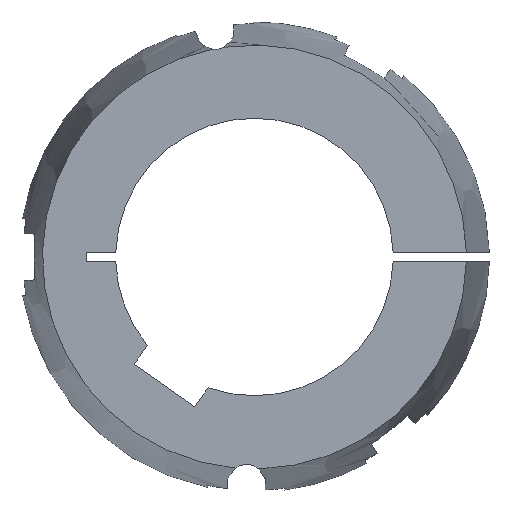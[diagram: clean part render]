
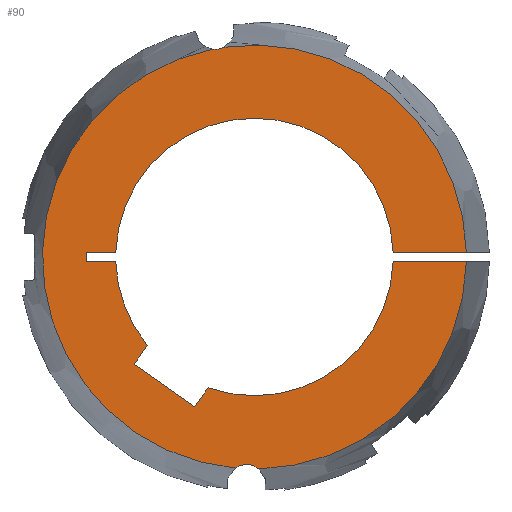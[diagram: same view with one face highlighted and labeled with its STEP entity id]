
A CAD part, left-side view. The second image highlights one B-rep face of the part: STEP entity #90.
In plain terms, the highlighted planar face has unit normal (-1, 0, 0).
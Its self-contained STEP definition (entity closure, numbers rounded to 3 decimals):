
#90 = ADVANCED_FACE( '', ( #140 ), #141, .F. );
#140 = FACE_OUTER_BOUND( '', #208, .T. );
#141 = PLANE( '', #209 );
#208 = EDGE_LOOP( '', ( #369, #370, #371, #372, #373, #374, #375, #376, #377, #378, #379, #380, #381, #382, #383, #384 ) );
#209 = AXIS2_PLACEMENT_3D( '', #385, #386, #387 );
#369 = ORIENTED_EDGE( '', *, *, #548, .F. );
#370 = ORIENTED_EDGE( '', *, *, #601, .F. );
#371 = ORIENTED_EDGE( '', *, *, #570, .T. );
#372 = ORIENTED_EDGE( '', *, *, #583, .T. );
#373 = ORIENTED_EDGE( '', *, *, #581, .T. );
#374 = ORIENTED_EDGE( '', *, *, #578, .T. );
#375 = ORIENTED_EDGE( '', *, *, #587, .T. );
#376 = ORIENTED_EDGE( '', *, *, #602, .T. );
#377 = ORIENTED_EDGE( '', *, *, #603, .T. );
#378 = ORIENTED_EDGE( '', *, *, #604, .T. );
#379 = ORIENTED_EDGE( '', *, *, #605, .T. );
#380 = ORIENTED_EDGE( '', *, *, #606, .T. );
#381 = ORIENTED_EDGE( '', *, *, #572, .T. );
#382 = ORIENTED_EDGE( '', *, *, #607, .F. );
#383 = ORIENTED_EDGE( '', *, *, #551, .F. );
#384 = ORIENTED_EDGE( '', *, *, #608, .F. );
#385 = CARTESIAN_POINT( '', ( -89., 0., 0. ) );
#386 = DIRECTION( '', ( 1., 0., 0. ) );
#387 = DIRECTION( '', ( 0., 1., 0. ) );
#548 = EDGE_CURVE( '', #649, #651, #652, .F. );
#551 = EDGE_CURVE( '', #655, #657, #658, .F. );
#570 = EDGE_CURVE( '', #693, #691, #694, .T. );
#572 = EDGE_CURVE( '', #696, #697, #698, .T. );
#578 = EDGE_CURVE( '', #709, #707, #710, .T. );
#581 = EDGE_CURVE( '', #714, #709, #715, .T. );
#583 = EDGE_CURVE( '', #691, #714, #717, .T. );
#587 = EDGE_CURVE( '', #707, #721, #723, .T. );
#601 = EDGE_CURVE( '', #693, #649, #745, .T. );
#602 = EDGE_CURVE( '', #721, #746, #747, .T. );
#603 = EDGE_CURVE( '', #746, #748, #749, .T. );
#604 = EDGE_CURVE( '', #748, #750, #751, .T. );
#605 = EDGE_CURVE( '', #750, #752, #753, .T. );
#606 = EDGE_CURVE( '', #752, #696, #754, .T. );
#607 = EDGE_CURVE( '', #657, #697, #755, .T. );
#608 = EDGE_CURVE( '', #651, #655, #756, .T. );
#649 = VERTEX_POINT( '', #815 );
#651 = VERTEX_POINT( '', #828 );
#652 = CIRCLE( '', #829, 5.25 );
#655 = VERTEX_POINT( '', #843 );
#657 = VERTEX_POINT( '', #861 );
#658 = CIRCLE( '', #862, 5.25 );
#691 = VERTEX_POINT( '', #935 );
#693 = VERTEX_POINT( '', #938 );
#694 = LINE( '', #939, #940 );
#696 = VERTEX_POINT( '', #948 );
#697 = VERTEX_POINT( '', #949 );
#698 = LINE( '', #950, #951 );
#707 = VERTEX_POINT( '', #969 );
#709 = VERTEX_POINT( '', #972 );
#710 = LINE( '', #973, #974 );
#714 = VERTEX_POINT( '', #980 );
#715 = LINE( '', #981, #982 );
#717 = CIRCLE( '', #985, 37.5 );
#721 = VERTEX_POINT( '', #990 );
#723 = LINE( '', #993, #994 );
#745 = CIRCLE( '', #1019, 57.277 );
#746 = VERTEX_POINT( '', #1020 );
#747 = CIRCLE( '', #1021, 37.5 );
#748 = VERTEX_POINT( '', #1022 );
#749 = LINE( '', #1023, #1024 );
#750 = VERTEX_POINT( '', #1025 );
#751 = LINE( '', #1026, #1027 );
#752 = VERTEX_POINT( '', #1028 );
#753 = LINE( '', #1029, #1030 );
#754 = CIRCLE( '', #1031, 37.5 );
#755 = CIRCLE( '', #1032, 57.277 );
#756 = CIRCLE( '', #1033, 57.277 );
#815 = CARTESIAN_POINT( '', ( -89., -1.169, -57.265 ) );
#828 = CARTESIAN_POINT( '', ( -89., 5.158, -57.044 ) );
#829 = AXIS2_PLACEMENT_3D( '', #1193, #1194, #1195 );
#843 = CARTESIAN_POINT( '', ( -89., 11.362, 56.138 ) );
#861 = CARTESIAN_POINT( '', ( -89., 8.229, 56.682 ) );
#862 = AXIS2_PLACEMENT_3D( '', #1196, #1197, #1198 );
#935 = CARTESIAN_POINT( '', ( -89., -37.479, -1.25 ) );
#938 = CARTESIAN_POINT( '', ( -89., -57.263, -1.25 ) );
#939 = CARTESIAN_POINT( '', ( -89., -63.5, -1.25 ) );
#940 = VECTOR( '', #1228, 1000. );
#948 = CARTESIAN_POINT( '', ( -89., -37.479, 1.25 ) );
#949 = CARTESIAN_POINT( '', ( -89., -57.263, 1.25 ) );
#950 = CARTESIAN_POINT( '', ( -89., 0., 1.25 ) );
#951 = VECTOR( '', #1229, 1000. );
#969 = CARTESIAN_POINT( '', ( -89., 32.511, -28.996 ) );
#972 = CARTESIAN_POINT( '', ( -89., 16.128, -40.468 ) );
#973 = CARTESIAN_POINT( '', ( -89., 16.128, -40.468 ) );
#974 = VECTOR( '', #1234, 1000. );
#980 = CARTESIAN_POINT( '', ( -89., 12.539, -35.342 ) );
#981 = CARTESIAN_POINT( '', ( -89., 12.539, -35.342 ) );
#982 = VECTOR( '', #1237, 1000. );
#985 = AXIS2_PLACEMENT_3D( '', #1239, #1240, #1241 );
#990 = CARTESIAN_POINT( '', ( -89., 28.922, -23.87 ) );
#993 = CARTESIAN_POINT( '', ( -89., 32.511, -28.996 ) );
#994 = VECTOR( '', #1247, 1000. );
#1019 = AXIS2_PLACEMENT_3D( '', #1281, #1282, #1283 );
#1020 = CARTESIAN_POINT( '', ( -89., 37.479, -1.25 ) );
#1021 = AXIS2_PLACEMENT_3D( '', #1284, #1285, #1286 );
#1022 = CARTESIAN_POINT( '', ( -89., 45.5, -1.25 ) );
#1023 = CARTESIAN_POINT( '', ( -89., 0., -1.25 ) );
#1024 = VECTOR( '', #1287, 1000. );
#1025 = CARTESIAN_POINT( '', ( -89., 45.5, 1.25 ) );
#1026 = CARTESIAN_POINT( '', ( -89., 45.5, -1.25 ) );
#1027 = VECTOR( '', #1288, 1000. );
#1028 = CARTESIAN_POINT( '', ( -89., 37.479, 1.25 ) );
#1029 = CARTESIAN_POINT( '', ( -89., 45.5, 1.25 ) );
#1030 = VECTOR( '', #1289, 1000. );
#1031 = AXIS2_PLACEMENT_3D( '', #1290, #1291, #1292 );
#1032 = AXIS2_PLACEMENT_3D( '', #1293, #1294, #1295 );
#1033 = AXIS2_PLACEMENT_3D( '', #1296, #1297, #1298 );
#1193 = CARTESIAN_POINT( '', ( -89., 2.141, -61.34 ) );
#1194 = DIRECTION( '', ( 1., 0., 0. ) );
#1195 = DIRECTION( '', ( 0., 1., 0. ) );
#1196 = CARTESIAN_POINT( '', ( -89., 10.652, 61.34 ) );
#1197 = DIRECTION( '', ( 1., 0., 0. ) );
#1198 = DIRECTION( '', ( 0., 1., 0. ) );
#1228 = DIRECTION( '', ( 0., 1., 0. ) );
#1229 = DIRECTION( '', ( 0., -1., 0. ) );
#1234 = DIRECTION( '', ( 0., 0.819, 0.574 ) );
#1237 = DIRECTION( '', ( 0., 0.574, -0.819 ) );
#1239 = CARTESIAN_POINT( '', ( -89., 0., 0. ) );
#1240 = DIRECTION( '', ( 1., 0., 0. ) );
#1241 = DIRECTION( '', ( 0., 0., -1. ) );
#1247 = DIRECTION( '', ( 0., -0.574, 0.819 ) );
#1281 = CARTESIAN_POINT( '', ( -89., 0., 0. ) );
#1282 = DIRECTION( '', ( 1., 0., 0. ) );
#1283 = DIRECTION( '', ( 0., 1., 0. ) );
#1284 = CARTESIAN_POINT( '', ( -89., 0., 0. ) );
#1285 = DIRECTION( '', ( 1., 0., 0. ) );
#1286 = DIRECTION( '', ( 0., 0., -1. ) );
#1287 = DIRECTION( '', ( 0., 1., 0. ) );
#1288 = DIRECTION( '', ( 0., 0., 1. ) );
#1289 = DIRECTION( '', ( 0., -1., 0. ) );
#1290 = CARTESIAN_POINT( '', ( -89., 0., 0. ) );
#1291 = DIRECTION( '', ( 1., 0., 0. ) );
#1292 = DIRECTION( '', ( 0., 0., -1. ) );
#1293 = CARTESIAN_POINT( '', ( -89., 0., 0. ) );
#1294 = DIRECTION( '', ( 1., 0., 0. ) );
#1295 = DIRECTION( '', ( 0., 1., 0. ) );
#1296 = CARTESIAN_POINT( '', ( -89., 0., 0. ) );
#1297 = DIRECTION( '', ( 1., 0., 0. ) );
#1298 = DIRECTION( '', ( 0., 1., 0. ) );
